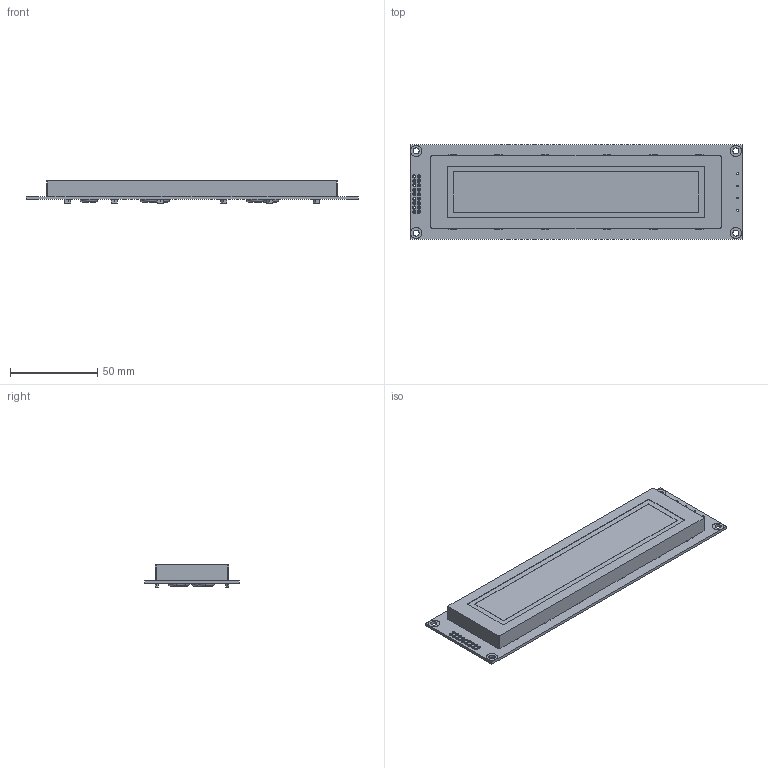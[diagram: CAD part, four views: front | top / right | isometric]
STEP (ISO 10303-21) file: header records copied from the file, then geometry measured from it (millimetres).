
FILE_DESCRIPTION (( 'STEP AP214' ), '1' );
FILE_NAME ('NHD-0440WH-ATFH-JT#.STEP', '2018-03-07T20:59:57', ( '' ), ( '' ), 'SwSTEP 2.0', 'SolidWorks 2018', '' );
FILE_SCHEMA (( 'AUTOMOTIVE_DESIGN' ));
Length unit declared in the file: millimetre
Products named in the file (1): NHD-0440WH-ATFH-JT#
Bounding box: 190 x 54 x 12.7 mm (x, y, z)
Volume: 78674.1 mm3; surface area: 25828.2 mm2
Topology: 1 solids, 1 shells, 451 faces, 1164 edges, 756 vertices
Faces by surface type: plane 247, cylinder 192, torus 12
Entity records: 18925 total; most frequent: DIRECTION 2488, CARTESIAN_POINT 2372, ORIENTED_EDGE 2328, EDGE_CURVE 1164, AXIS2_PLACEMENT_3D 872, VERTEX_POINT 756, VECTOR 744, LINE 744
